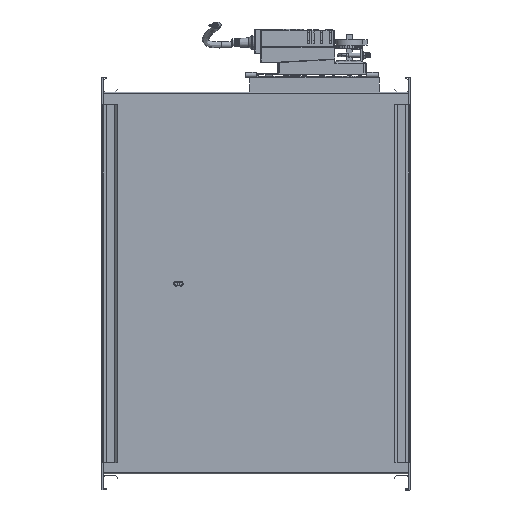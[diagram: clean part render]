
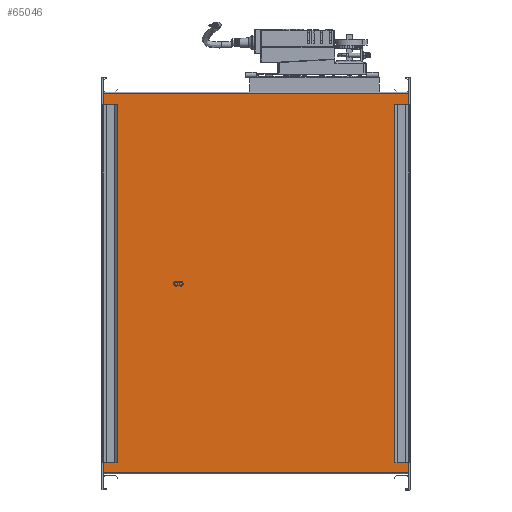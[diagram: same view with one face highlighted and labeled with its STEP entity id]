
A CAD part, front view. The second image highlights one B-rep face of the part: STEP entity #65046.
In plain terms, the highlighted planar face has unit normal (0, -1, 0).
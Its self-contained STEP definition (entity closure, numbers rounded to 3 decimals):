
#665 = ORIENTED_EDGE ( 'NONE', *, *, #83763, .T. ) ;
#5534 = CARTESIAN_POINT ( 'NONE',  ( -244.423, -35.848, 852. ) ) ;
#5982 = CARTESIAN_POINT ( 'NONE',  ( 155.577, -35.848, 1348. ) ) ;
#10332 = ORIENTED_EDGE ( 'NONE', *, *, #73468, .F. ) ;
#10683 = VECTOR ( 'NONE', #41576, 1000. ) ;
#14133 = CARTESIAN_POINT ( 'NONE',  ( 155.577, -35.848, 852. ) ) ;
#14288 = VERTEX_POINT ( 'NONE', #87220 ) ;
#14965 = ORIENTED_EDGE ( 'NONE', *, *, #50877, .T. ) ;
#15807 = FACE_OUTER_BOUND ( 'NONE', #41006, .T. ) ;
#16720 = PLANE ( 'NONE',  #64998 ) ;
#20494 = LINE ( 'NONE', #5534, #10683 ) ;
#23682 = LINE ( 'NONE', #58753, #78121 ) ;
#31277 = CARTESIAN_POINT ( 'NONE',  ( -244.423, -35.848, 852. ) ) ;
#33643 = CARTESIAN_POINT ( 'NONE',  ( -244.423, -35.848, 1348. ) ) ;
#35007 = LINE ( 'NONE', #33643, #38244 ) ;
#38244 = VECTOR ( 'NONE', #61621, 1000. ) ;
#41006 = EDGE_LOOP ( 'NONE', ( #73693, #10332, #14965, #665 ) ) ;
#41576 = DIRECTION ( 'NONE',  ( 0., 0., -1. ) ) ;
#42701 = VECTOR ( 'NONE', #70251, 1000. ) ;
#49756 = VERTEX_POINT ( 'NONE', #5982 ) ;
#50877 = EDGE_CURVE ( 'NONE', #59436, #14288, #20494, .T. ) ;
#53665 = CARTESIAN_POINT ( 'NONE',  ( -244.423, -35.848, 1348. ) ) ;
#55795 = CARTESIAN_POINT ( 'NONE',  ( -244.423, -35.848, 852. ) ) ;
#58753 = CARTESIAN_POINT ( 'NONE',  ( 155.577, -35.848, 852. ) ) ;
#59436 = VERTEX_POINT ( 'NONE', #53665 ) ;
#59714 = DIRECTION ( 'NONE',  ( 0., -1., 0. ) ) ;
#59775 = EDGE_CURVE ( 'NONE', #49756, #85466, #23682, .T. ) ;
#61621 = DIRECTION ( 'NONE',  ( 1., 0., 0. ) ) ;
#64998 = AXIS2_PLACEMENT_3D ( 'NONE', #31277, #59714, #88722 ) ;
#65046 = ADVANCED_FACE ( 'NONE', ( #15807 ), #16720, .T. ) ;
#66650 = DIRECTION ( 'NONE',  ( 0., 0., -1. ) ) ;
#69787 = LINE ( 'NONE', #55795, #42701 ) ;
#70251 = DIRECTION ( 'NONE',  ( 1., 0., 0. ) ) ;
#73468 = EDGE_CURVE ( 'NONE', #59436, #49756, #35007, .T. ) ;
#73693 = ORIENTED_EDGE ( 'NONE', *, *, #59775, .F. ) ;
#78121 = VECTOR ( 'NONE', #66650, 1000. ) ;
#83763 = EDGE_CURVE ( 'NONE', #14288, #85466, #69787, .T. ) ;
#85466 = VERTEX_POINT ( 'NONE', #14133 ) ;
#87220 = CARTESIAN_POINT ( 'NONE',  ( -244.423, -35.848, 852. ) ) ;
#88722 = DIRECTION ( 'NONE',  ( 0., 0., -1. ) ) ;
